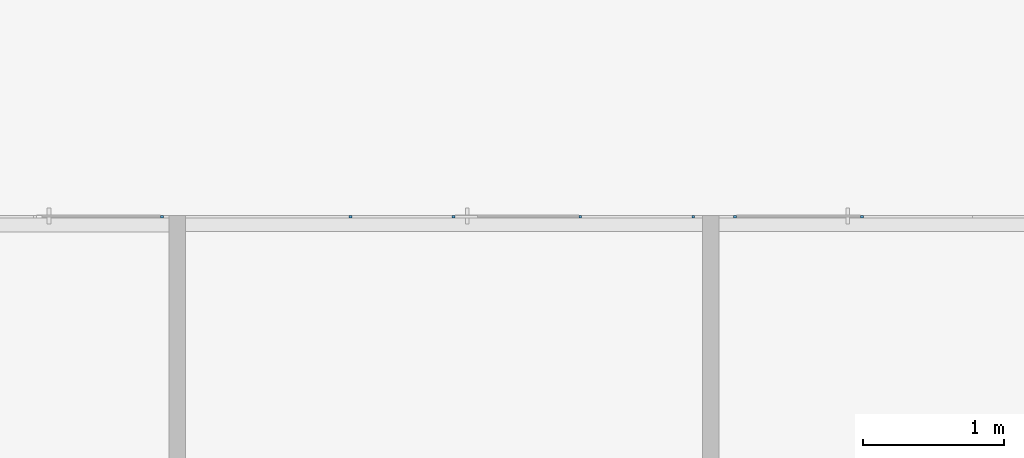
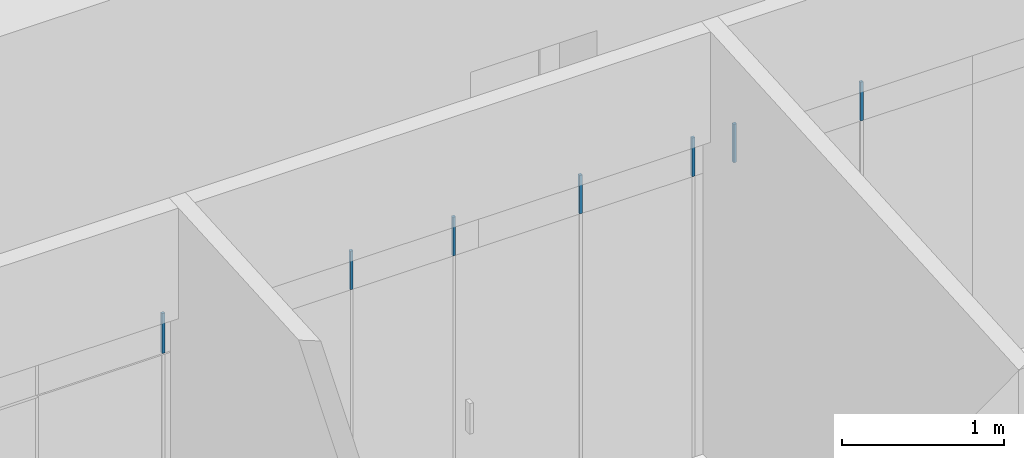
# One storey, part 8 of 46: 8 members, 3 elements without a shape of their own.
"""IFC2X3 building model written with IfcOpenShell, lengths in millimetres."""

from ifc_helpers import new_model, entity, si_unit, converted_unit, derived_unit, direction, frame, origin, origin_2d_with_axis, place, context, subcontext, project, spatial, rectangle, extrude, source, transform, mapped, material, type_object, type_shapes, element, aggregate, save


model = new_model("IFC2X3")

# Units and contexts
model_context = context("Model", 3, precision=0.01, world=origin(), true_north=direction((6.12303176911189e-17, 1.0)))
body_context = subcontext(model_context, "Body", "Model", "MODEL_VIEW")
ifc_project = project(units=[si_unit("LENGTHUNIT", "METRE", prefix="MILLI"), si_unit("AREAUNIT", "SQUARE_METRE"), si_unit("VOLUMEUNIT", "CUBIC_METRE"), converted_unit("PLANEANGLEUNIT", "DEGREE", entity("IfcRatioMeasure", 0.0174532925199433), si_unit("PLANEANGLEUNIT", "RADIAN"), dimensions=[0, 0, 0, 0, 0, 0, 0]), si_unit("MASSUNIT", "GRAM", prefix="KILO"), derived_unit("MASSDENSITYUNIT", [(si_unit("MASSUNIT", "GRAM", prefix="KILO"), 1), (si_unit("LENGTHUNIT", "METRE"), -3)]), si_unit("TIMEUNIT", "SECOND"), si_unit("FREQUENCYUNIT", "HERTZ"), si_unit("THERMODYNAMICTEMPERATUREUNIT", "DEGREE_CELSIUS"), derived_unit("THERMALTRANSMITTANCEUNIT", [(si_unit("MASSUNIT", "GRAM", prefix="KILO"), 1), (si_unit("THERMODYNAMICTEMPERATUREUNIT", "KELVIN"), -1), (si_unit("TIMEUNIT", "SECOND"), -3)]), derived_unit("VOLUMETRICFLOWRATEUNIT", [(si_unit("LENGTHUNIT", "METRE"), 3), (si_unit("TIMEUNIT", "SECOND"), -1)]), si_unit("ELECTRICCURRENTUNIT", "AMPERE"), si_unit("ELECTRICVOLTAGEUNIT", "VOLT"), si_unit("POWERUNIT", "WATT"), si_unit("FORCEUNIT", "NEWTON", prefix="KILO"), si_unit("ILLUMINANCEUNIT", "LUX"), si_unit("LUMINOUSFLUXUNIT", "LUMEN"), si_unit("LUMINOUSINTENSITYUNIT", "CANDELA"), derived_unit("USERDEFINED", [(si_unit("MASSUNIT", "GRAM", prefix="KILO"), -1), (si_unit("LENGTHUNIT", "METRE"), -2), (si_unit("TIMEUNIT", "SECOND"), 3), (si_unit("LUMINOUSFLUXUNIT", "LUMEN"), 1)]), derived_unit("LINEARVELOCITYUNIT", [(si_unit("LENGTHUNIT", "METRE"), 1), (si_unit("TIMEUNIT", "SECOND"), -1)]), si_unit("PRESSUREUNIT", "PASCAL"), derived_unit("USERDEFINED", [(si_unit("LENGTHUNIT", "METRE"), -2), (si_unit("MASSUNIT", "GRAM", prefix="KILO"), 1), (si_unit("TIMEUNIT", "SECOND"), -2)])], contexts=[model_context])

# Site, building, storey
site_placement = place(None, frame((-151.875543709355, 2715.0, 0.0)))
site = spatial("IfcSite", under=ifc_project, at=site_placement, Name="Surface", CompositionType="ELEMENT")
building_placement = place(site_placement, origin())
building = spatial("IfcBuilding", under=site, at=building_placement, CompositionType="ELEMENT")
storey_placement = place(building_placement, frame((0.0, 0.0, 10060.0)))
storey = spatial("IfcBuildingStorey", under=building, at=storey_placement, Name="4 korrus", CompositionType="ELEMENT", Elevation=10060.0000000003)

# Curtain wall, member
curtain_wall_type_1 = type_object("IfcCurtainWallType", Name="Curtain Wall:Klaassein KLS-24", PredefinedType="NOTDEFINED")
curtain_wall_1_placement = place(storey_placement, frame((0.0, 0.0, -10060.0)))
curtain_wall_1 = element("IfcCurtainWall", 1, at=curtain_wall_1_placement, inside=storey, type_object=curtain_wall_type_1, Name="Curtain Wall:Klaassein KLS-24", ObjectType="Curtain Wall:Klaassein KLS-24")
ifc_material = material(Name="__Uks_hele tamm")
member_type_1 = type_object("IfcMemberType", Name="20 x 20mm", PredefinedType="MEMBER")
shared_shape_1 = source(origin(), body_context, "Body", "SweptSolid", [
    extrude(rectangle(XDim=20.0, YDim=20.0, at=origin_2d_with_axis()), frame((0.0, 0.0, -300.0), z_axis=(0.0, 0.0, 1.0), x_axis=(0.0, -1.0, 0.0)), (0.0, 0.0, 1.0), 299.999999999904),
])
type_shapes(member_type_1, [shared_shape_1])
member_1_placement = place(storey_placement, frame((8951.56472640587, 4355.0449339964, 2100.0), z_axis=(0.0, 0.0, -1.0), x_axis=(-1.0, 0.0, 0.0)))
member_1 = element("IfcMember", 2, at=member_1_placement, type_object=member_type_1, material=ifc_material, Name="Rectangular Mullion:20 x 20mm", ObjectType="20 x 20mm", context=body_context, shape_type="MappedRepresentation", body=[
    mapped(shared_shape_1, transform((0.0, 0.0, 0.0), scale=1.0)),
])
aggregate(curtain_wall_1, [member_1])

# Curtain wall, members
curtain_wall_type_2 = type_object("IfcCurtainWallType", Name="Curtain Wall:Klaassein KLS-26", PredefinedType="NOTDEFINED")
curtain_wall_2_placement = place(storey_placement, frame((0.0, 0.0, -10060.0)))
curtain_wall_2 = element("IfcCurtainWall", 3, at=curtain_wall_2_placement, inside=storey, type_object=curtain_wall_type_2, Name="Curtain Wall:Klaassein KLS-26", ObjectType="Curtain Wall:Klaassein KLS-26")
member_type_2 = type_object("IfcMemberType", Name="20 x 20mm", PredefinedType="MEMBER")
shared_shape_2 = source(origin(), body_context, "Body", "SweptSolid", [
    extrude(rectangle(XDim=20.0, YDim=20.0, at=origin_2d_with_axis()), frame((0.0, 0.0, -290.0), z_axis=(0.0, 0.0, 1.0), x_axis=(0.0, -1.0, 0.0)), (0.0, 0.0, 1.0), 290.0),
])
type_shapes(member_type_2, [shared_shape_2])
member_2_placement = place(storey_placement, frame((13913.5647267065, 4355.1956268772, 2110.0), z_axis=(0.0, 0.0, -1.0), x_axis=(1.0, 0.0, 0.0)))
member_2 = element("IfcMember", 4, at=member_2_placement, type_object=member_type_2, material=ifc_material, Name="Rectangular Mullion:20 x 20mm", ObjectType="20 x 20mm", context=body_context, shape_type="MappedRepresentation", body=[
    mapped(shared_shape_2, transform((0.0, 0.0, 0.0), scale=1.0)),
])
member_3_placement = place(storey_placement, frame((13013.5647267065, 4355.1956268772, 2110.0), z_axis=(0.0, 0.0, -1.0), x_axis=(1.0, 0.0, 0.0)))
member_3 = element("IfcMember", 5, at=member_3_placement, type_object=member_type_2, material=ifc_material, Name="Rectangular Mullion:20 x 20mm", ObjectType="20 x 20mm", context=body_context, shape_type="MappedRepresentation", body=[
    mapped(shared_shape_2, transform((0.0, 0.0, 0.0), scale=1.0)),
])
member_4_placement = place(storey_placement, frame((13914.5647267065, 4355.1956268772, 2110.0), z_axis=(0.0, 0.0, -1.0), x_axis=(1.0, 0.0, 0.0)))
member_4 = element("IfcMember", 6, at=member_4_placement, type_object=member_type_2, material=ifc_material, Name="Rectangular Mullion:20 x 20mm", ObjectType="20 x 20mm", context=body_context, shape_type="MappedRepresentation", body=[
    mapped(shared_shape_2, transform((0.0, 0.0, 0.0), scale=1.0)),
])
aggregate(curtain_wall_2, [member_2, member_3, member_4])

curtain_wall_type_3 = type_object("IfcCurtainWallType", Name="Curtain Wall:Klaassein KLS-25", PredefinedType="NOTDEFINED")
curtain_wall_3_placement = place(storey_placement, frame((0.0, 0.0, -10060.0)))
curtain_wall_3 = element("IfcCurtainWall", 7, at=curtain_wall_3_placement, inside=storey, type_object=curtain_wall_type_3, Name="Curtain Wall:Klaassein KLS-25", ObjectType="Curtain Wall:Klaassein KLS-25")
member_5_placement = place(storey_placement, frame((10288.8755458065, 4355.19562687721, 2110.0), z_axis=(0.0, 0.0, -1.0), x_axis=(1.0, 0.0, 0.0)))
member_5 = element("IfcMember", 8, at=member_5_placement, type_object=member_type_2, material=ifc_material, Name="Rectangular Mullion:20 x 20mm", ObjectType="20 x 20mm", context=body_context, shape_type="MappedRepresentation", body=[
    mapped(shared_shape_2, transform((0.0, 0.0, 0.0), scale=1.0)),
])
member_6_placement = place(storey_placement, frame((11017.5647267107, 4355.19562687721, 2110.0), z_axis=(0.0, 0.0, -1.0), x_axis=(1.0, 0.0, 0.0)))
member_6 = element("IfcMember", 9, at=member_6_placement, type_object=member_type_2, material=ifc_material, Name="Rectangular Mullion:20 x 20mm", ObjectType="20 x 20mm", context=body_context, shape_type="MappedRepresentation", body=[
    mapped(shared_shape_2, transform((0.0, 0.0, 0.0), scale=1.0)),
])
member_7_placement = place(storey_placement, frame((11917.5647267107, 4355.19562687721, 2110.0), z_axis=(0.0, 0.0, -1.0), x_axis=(1.0, 0.0, 0.0)))
member_7 = element("IfcMember", 10, at=member_7_placement, type_object=member_type_2, material=ifc_material, Name="Rectangular Mullion:20 x 20mm", ObjectType="20 x 20mm", context=body_context, shape_type="MappedRepresentation", body=[
    mapped(shared_shape_2, transform((0.0, 0.0, 0.0), scale=1.0)),
])
member_8_placement = place(storey_placement, frame((12717.5647267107, 4355.1956268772, 2110.0), z_axis=(0.0, 0.0, -1.0), x_axis=(1.0, 0.0, 0.0)))
member_8 = element("IfcMember", 11, at=member_8_placement, type_object=member_type_2, material=ifc_material, Name="Rectangular Mullion:20 x 20mm", ObjectType="20 x 20mm", context=body_context, shape_type="MappedRepresentation", body=[
    mapped(shared_shape_2, transform((0.0, 0.0, 0.0), scale=1.0)),
])
aggregate(curtain_wall_3, [member_5, member_6, member_7, member_8])

save(model, "model.ifc")
